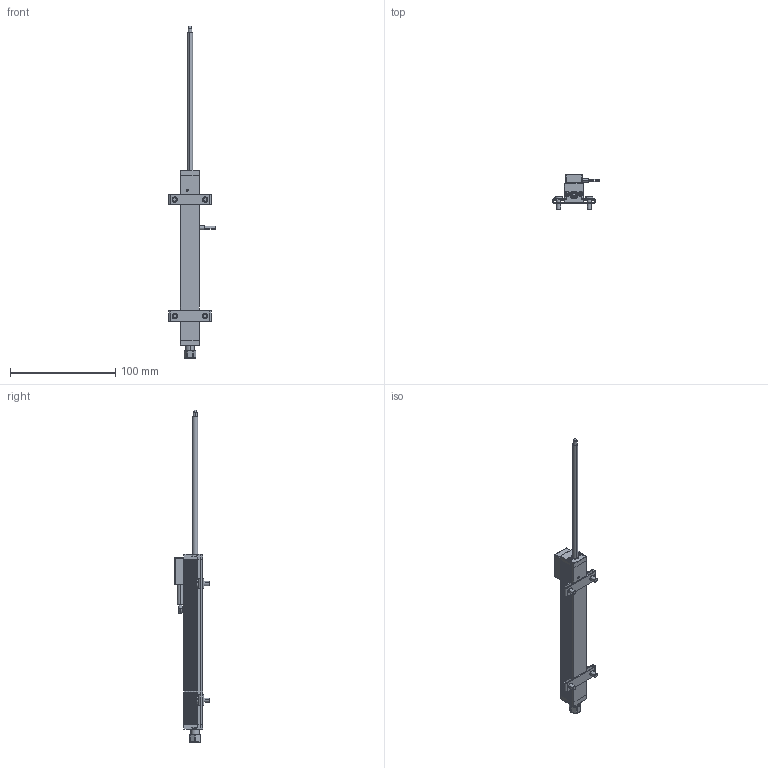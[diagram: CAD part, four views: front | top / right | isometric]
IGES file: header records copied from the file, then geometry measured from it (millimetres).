
Start section: SolidWorks IGES file using analytic representation for surfaces
Global section: file name: E:\Salzinger\I-net_3D\T-Serie_Essentials\T_TS_TR_TRS_-_SLDPRTs\TR_100.IGS; native system: SolidWorks 2008; preprocessor: SolidWorks 2008; author: salzinger; date: 081105.132639; units: millimetre
Bounding box: 44.13 x 33.19 x 315 mm (x, y, z)
Surface area: 31057.9 mm2 (no closed solid volume)
Topology: 0 solids, 0 shells, 945 faces, 9282 edges, 9268 vertices
Faces by surface type: revolution 566, bspline 379
